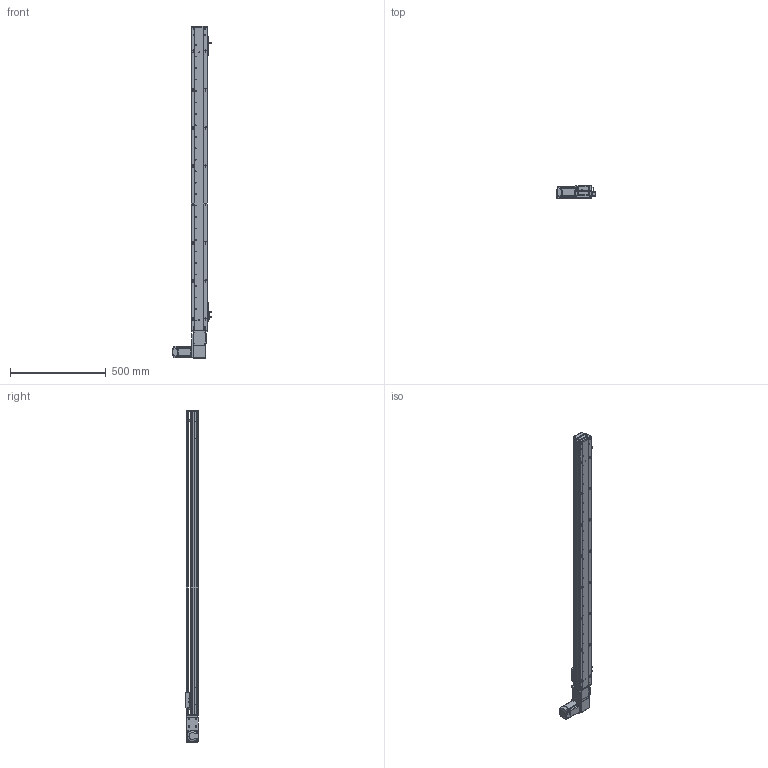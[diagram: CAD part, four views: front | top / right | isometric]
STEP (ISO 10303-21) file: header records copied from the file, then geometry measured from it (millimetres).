
FILE_DESCRIPTION (( 'STEP AP203' ), '1' );
FILE_NAME ('RY80-T-300-LK.SLDASM_1400.step', '2021-03-01T01:59:30', ( '盈信电脑' ), ( '东莞市道滘镇水果街19号' ), 'SwSTEP 2.0', 'SolidWorks 2012', '' );
FILE_SCHEMA (( 'CONFIG_CONTROL_DESIGN' ));
Products named in the file (19): RY80-T-300-LK.SLDASM_1400; RY80-T-M4蹟翐; 侂狟200W萇儂; 1; RY80-T萇儂假蚾啣; RY80-T肮祭謫俋欶; RY80-T翋肮祭謫裔啣; RY80-T肮祭湍揤輸2; 滅袉蝶18-10; RY80-T粣創揤踡輸; RY80-T肮祭湍揤輸1; 覜茼ん672; RY80俋离覜茼え; RY80-T-翋肮祭謫釱; RY80-T-300-LK倰第奻裔啣_1400; RY80-T肮祭謫臏賑輸; 672嫖萇羲壽假蚾釱; RY80-T綴裔啣; RY80-T-300-LK倰第菁釱_1400
Assembly tree (24 placements, depth 3):
  RY80-T-300-LK.SLDASM_1400
    RY80-T-300-LK倰第菁釱_1400
    RY80-T肮祭謫臏賑輸
    RY80-T-300-LK倰第奻裔啣_1400
    RY80-T綴裔啣
    672嫖萇羲壽假蚾釱  x2
    覜茼ん672  x3
    RY80俋离覜茼え
    RY80-T-翋肮祭謫釱
    RY80-T肮祭湍揤輸1
    RY80-T肮祭湍揤輸2
    RY80-T粣創揤踡輸
    RY80-T翋肮祭謫裔啣  x2
    滅袉蝶18-10  x2
    侂狟200W萇儂
      1
    RY80-T肮祭謫俋欶
    RY80-T萇儂假蚾啣
    RY80-T-M4蹟翐  x2
Bounding box: 198.7 x 65 x 1735 mm (x, y, z)
Volume: 2698099.8 mm3; surface area: 1140342.3 mm2
Topology: 23 solids, 23 shells, 2508 faces, 6936 edges, 4507 vertices
Faces by surface type: plane 1325, cylinder 977, cone 150, bspline 56
Entity records: 79359 total; most frequent: CARTESIAN_POINT 19507, ORIENTED_EDGE 12316, DIRECTION 11542, EDGE_CURVE 6158, VERTEX_POINT 4048, AXIS2_PLACEMENT_3D 3899, VECTOR 3744, LINE 3744
